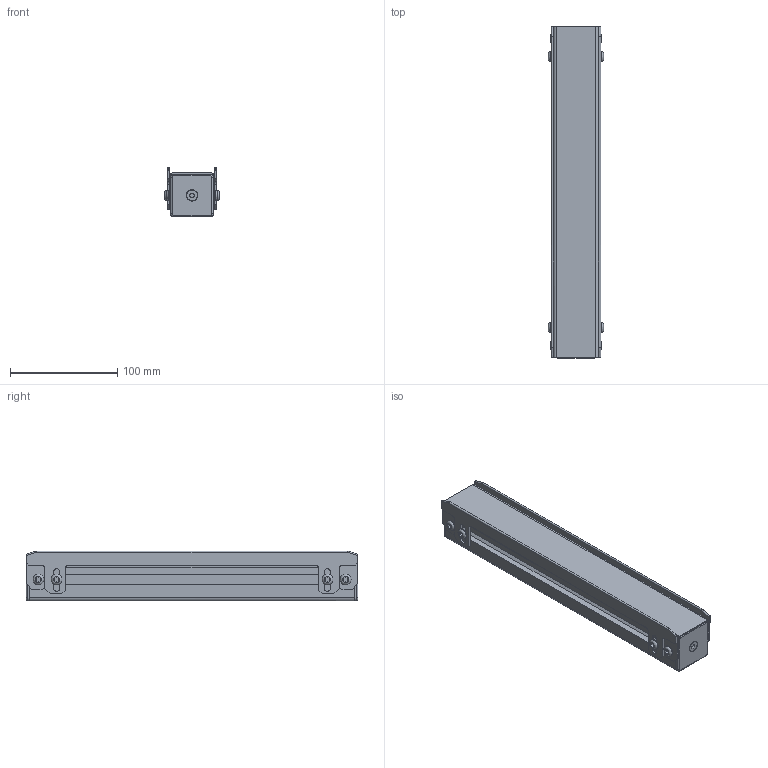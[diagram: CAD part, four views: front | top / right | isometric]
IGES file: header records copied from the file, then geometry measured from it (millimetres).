
Global section: file name: MGSS-FA-4040x310H; native system: unknown; preprocessor: unknown; author: unknown; organization: unknown; date: 20221215.130010; units: millimetre
Bounding box: 51.6 x 310 x 46.5 mm (x, y, z)
Volume: 244924.4 mm3; surface area: 212417.4 mm2
Topology: 16 solids, 16 shells, 352 faces, 936 edges, 618 vertices
Faces by surface type: bspline 352
